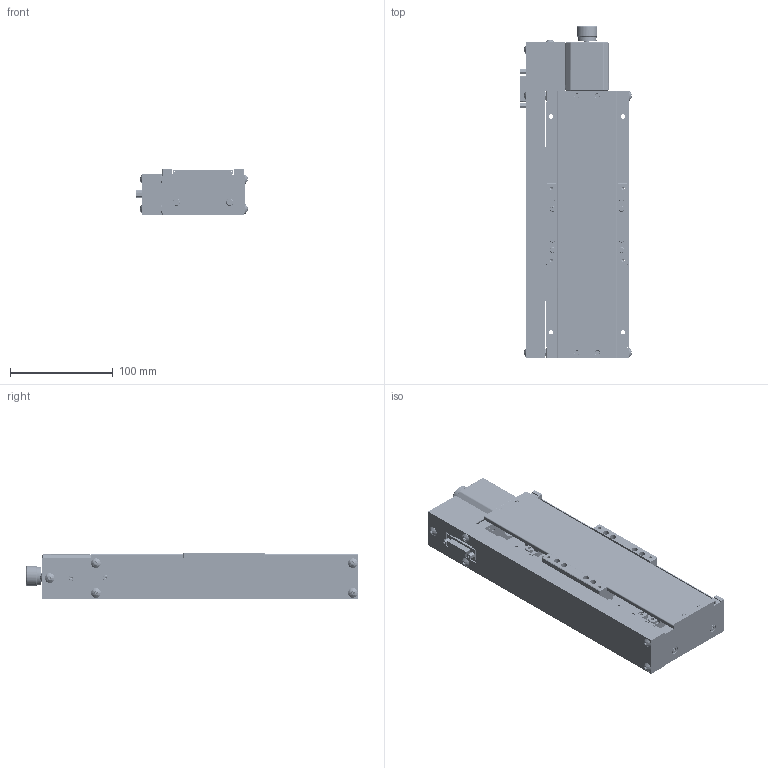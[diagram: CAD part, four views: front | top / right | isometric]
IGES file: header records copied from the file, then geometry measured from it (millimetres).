
Global section: file name: KLSS-100X-0B_IGS; native system: Autodesk Inventor 2016; preprocessor: unknown; author: k.hoshiba; date: 20170419.160942; units: millimetre
Bounding box: 108.49 x 323 x 45 mm (x, y, z)
Volume: 590329.6 mm3; surface area: 271161.7 mm2
Topology: 3 solids, 157 shells, 4058 faces, 10465 edges, 6990 vertices
Faces by surface type: bspline 4058
